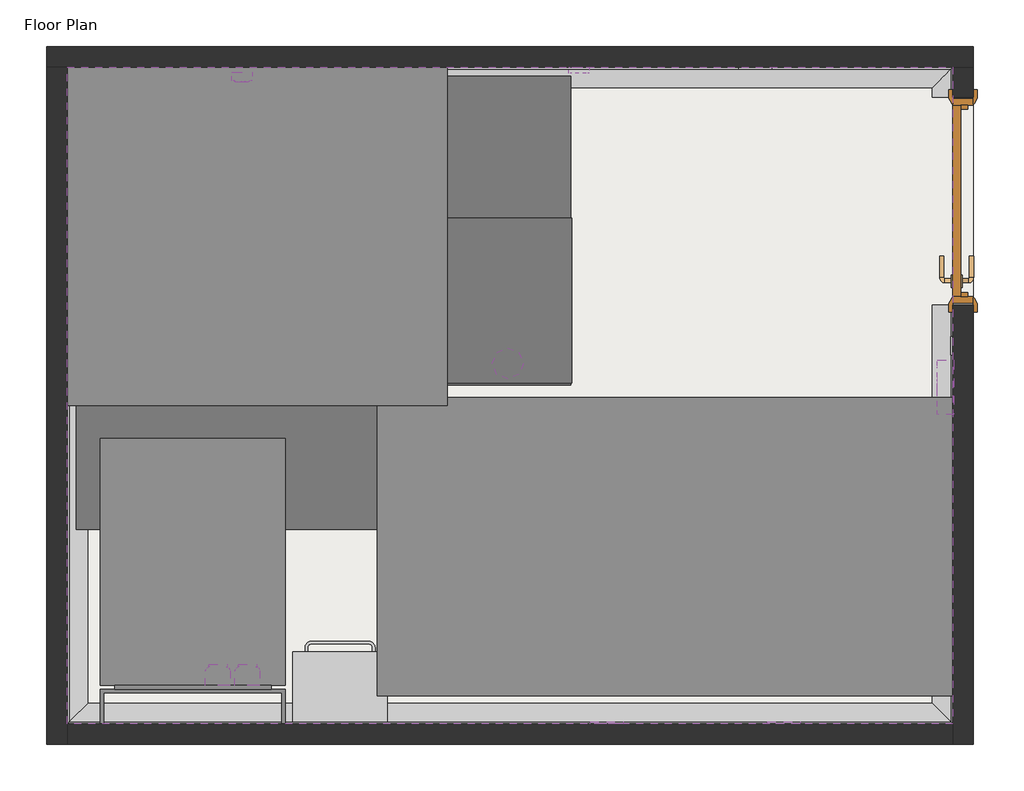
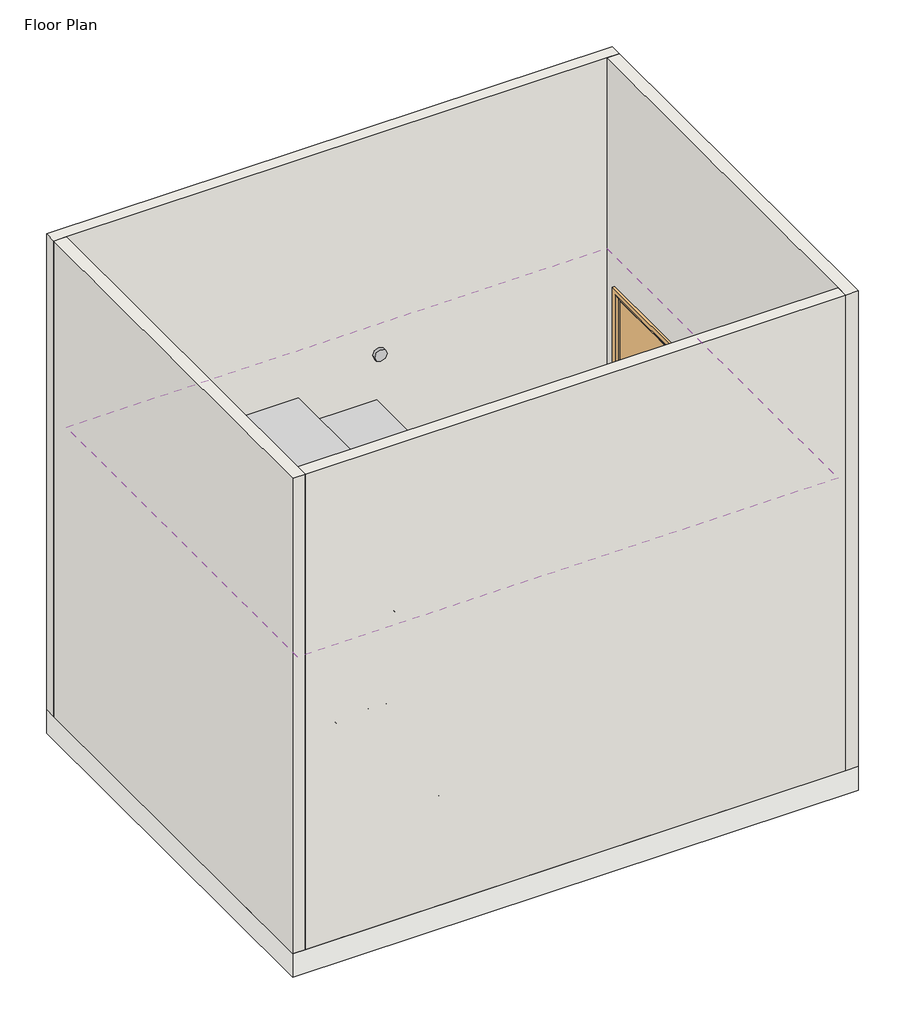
# One storey, incomplete: 20 proxies, 10 furniture elements, 5 walls, 2 flow terminals, 1 covering, 1 door, 1 slab.
"""IFC4 building model written with IfcOpenShell, lengths in millimetres."""

from ifc_helpers import new_model, si_unit, frame, origin, origin_with_axes, place, context, project, spatial, polyline, circle_curve, ellipse_curve, outline, extrude, faceted_brep, transform, mapped, element, save
from ifc_brep_helpers import plane_surface, revolved_surface, advanced_brep
from components import generic_models_cdc84ac3, generic_models_abbf64a3, generic_models_972189fc, generic_models_2b15bbc9, bimhealth_electrical_data_point_v1_type_1_559430e2, bimhealth_electrical_double_socket_v1_type_1_a33e6646, bimhealth_electrical_double_socket_v1_type_1_f9b83866, bimhealth_electrical_light_switch_v1_type_1_b5e59f8a, bimhealth_electrical_panic_alarm_v1_type_1_f5d69f13, bimhealth_electrical_smoke_detector_v1_bimhealth_electrical_fe9fcb6c, type_1_6de7a62d, door_1010x2110mm_f9eb5fde, flow_terminal_004a381b, flow_terminal_84fe5d21, furniture_3d3374f5, furniture_385ba860, furniture_c6a9ce10, furniture_500cdc3c, furniture_3867e9a4, furniture_d8de0f4c, furniture_166ce8d1, furniture_26d36cfe, furniture_3caebcda, furniture_fb8e9059

model = new_model("IFC4")

# Units and contexts
model_context = context("Model", 3, world=origin())
ifc_project = project(units=[si_unit("LENGTHUNIT", "METRE", prefix="MILLI")], contexts=[model_context])

# Site, building, storey
site = spatial("IfcSite", under=ifc_project)
building = spatial("IfcBuilding", under=site)
storey = spatial("IfcBuildingStorey", under=building, Name="Floor Plan", Elevation=0.0)

# Proxies
placement = place(None, origin())
element("IfcBuildingElementProxy", 1, Name="Wall Sweeps", at=placement, inside=storey, context=model_context, shape_type="AdvancedBrep", body=[
    advanced_brep(
    [(5.0, 5.0, 0.0), (105.0, 105.0, 0.0), (105.0, 105.0, 10.0), (15.0, 15.0, 100.0), (5.0, 5.0, 100.0), (5.0, 3195.0, 0.0), (5.0, 3195.0, 100.0), (15.0, 3185.0, 100.0), (105.0, 3095.0, 10.0), (105.0, 3095.0, 0.0)],
    [
        (0, 1),
        (1, 2),
        (2, 3, ellipse_curve(frame((105.0, 105.0, 100.0), z_axis=(-0.707106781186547, 0.7071067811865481, 0.0), x_axis=(0.7071067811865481, 0.7071067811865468, 0.0)), 127.2792206, 90.0)),
        (3, 4),
        (4, 0),
        (5, 6),
        (6, 7),
        (7, 8, ellipse_curve(frame((105.0, 3095.0, 100.0), z_axis=(-0.7071067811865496, -0.7071067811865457, 0.0), x_axis=(-0.7071067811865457, 0.7071067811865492, 0.0)), 127.2792206, 90.0)),
        (8, 9),
        (9, 5),
        (4, 6),
        (5, 0),
        (3, 7),
        (2, 8),
        (1, 9),
    ],
    [
        plane_surface(frame((5.0, 5.0, 304.8), z_axis=(0.707106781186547, -0.7071067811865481, 0.0), x_axis=(0.7071067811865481, 0.707106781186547, 0.0))),
        plane_surface(frame((5.0, 3195.0, 304.8), z_axis=(0.7071067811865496, 0.7071067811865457, 0.0), x_axis=(0.7071067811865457, -0.7071067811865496, 0.0))),
        plane_surface(frame((5.0, 5.0, 100.0), z_axis=(-1.0, 0.0, 0.0), x_axis=(0.0, 1.0, 0.0))),
        plane_surface(frame((15.0, 15.0, 100.0), z_axis=(0.0, 0.0, 1.0), x_axis=(0.0, 1.0, 0.0))),
        revolved_surface(polyline([(195.0, 3185.0, 100.0), (195.0, 15.0, 100.0)]), (105.0, 5.0, 100.0), (0.0, 1.0, 0.0)),
        plane_surface(frame((105.0, 105.0, 0.0), z_axis=(1.0, 0.0, 0.0), x_axis=(0.0, 1.0, 0.0))),
        plane_surface(frame((5.0, 5.0, 0.0), z_axis=(0.0, 0.0, -1.0), x_axis=(0.0, 1.0, 0.0))),
    ],
    [
        (0, [[1, 2, 3, 4, 5]]),
        (1, [[6, 7, 8, 9, 10]]),
        (2, [[-5, 11, -6, 12]]),
        (3, [[-4, 13, -7, -11]]),
        (4, [[-3, 14, -8, -13]]),
        (5, [[-2, 15, -9, -14]]),
        (6, [[-1, -12, -10, -15]]),
    ],
),
])
element("IfcBuildingElementProxy", 2, Name="Wall Sweeps", at=placement, inside=storey, context=model_context, shape_type="AdvancedBrep", body=[
    advanced_brep(
    [(5.0, 3195.0, 0.0), (105.0, 3095.0, 0.0), (105.0, 3095.0, 10.0), (15.0, 3185.0, 100.0), (5.0, 3195.0, 100.0), (4305.0, 3195.0, 0.0), (4305.0, 3195.0, 100.0), (4295.0, 3185.0, 100.0), (4205.0, 3095.0, 10.0), (4205.0, 3095.0, 0.0)],
    [
        (0, 1),
        (1, 2),
        (2, 3, ellipse_curve(frame((105.0, 3095.0, 100.0), z_axis=(0.7071067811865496, 0.7071067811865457, 0.0), x_axis=(0.7071067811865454, -0.7071067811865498, 0.0)), 127.2792206, 90.0)),
        (3, 4),
        (4, 0),
        (5, 6),
        (6, 7),
        (7, 8, ellipse_curve(frame((4205.0, 3095.0, 100.0), z_axis=(-0.7071067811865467, 0.7071067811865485, 0.0), x_axis=(0.7071067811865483, 0.7071067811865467, 0.0)), 127.2792206, 90.0)),
        (8, 9),
        (9, 5),
        (4, 6),
        (5, 0),
        (3, 7),
        (2, 8),
        (1, 9),
    ],
    [
        plane_surface(frame((5.0, 3195.0, 304.8), z_axis=(-0.7071067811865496, -0.7071067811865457, 0.0), x_axis=(0.7071067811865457, -0.7071067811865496, 0.0))),
        plane_surface(frame((4305.0, 3195.0, 304.8), z_axis=(0.7071067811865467, -0.7071067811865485, 0.0), x_axis=(-0.7071067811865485, -0.7071067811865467, 0.0))),
        plane_surface(frame((5.0, 3195.0, 100.0), z_axis=(0.0, 1.0, 0.0), x_axis=(1.0, 0.0, 0.0))),
        plane_surface(frame((15.0, 3185.0, 100.0), z_axis=(0.0, 0.0, 1.0), x_axis=(1.0, 0.0, 0.0))),
        revolved_surface(polyline([(4295.0, 3005.0, 100.0), (15.0, 3005.0, 100.0)]), (5.0, 3095.0, 100.0), (1.0, 0.0, 0.0)),
        plane_surface(frame((105.0, 3095.0, 0.0), z_axis=(0.0, -1.0, 0.0), x_axis=(1.0, 0.0, 0.0))),
        plane_surface(frame((5.0, 3195.0, 0.0), z_axis=(0.0, 0.0, -1.0), x_axis=(1.0, 0.0, 0.0))),
    ],
    [
        (0, [[1, 2, 3, 4, 5]]),
        (1, [[6, 7, 8, 9, 10]]),
        (2, [[-5, 11, -6, 12]]),
        (3, [[-4, 13, -7, -11]]),
        (4, [[-3, 14, -8, -13]]),
        (5, [[-2, 15, -9, -14]]),
        (6, [[-1, -12, -10, -15]]),
    ],
),
])
element("IfcBuildingElementProxy", 3, Name="Wall Sweeps", at=placement, inside=storey, context=model_context, shape_type="AdvancedBrep", body=[
    advanced_brep(
    [(4305.0, 2040.0, 0.0), (4205.0, 2040.0, 0.0), (4205.0, 2040.0, 10.0), (4295.0, 2040.0, 100.0), (4305.0, 2040.0, 100.0), (4305.0, 5.0, 0.0), (4305.0, 5.0, 100.0), (4295.0, 15.0, 100.0), (4205.0, 105.0, 10.0), (4205.0, 105.0, 0.0)],
    [
        (0, 1),
        (1, 2),
        (2, 3, circle_curve(frame((4205.0, 2040.0, 100.0), z_axis=(0.0, -1.0, 0.0), x_axis=(-1.0, 0.0, 0.0)), 90.0)),
        (3, 4),
        (4, 0),
        (5, 6),
        (6, 7),
        (7, 8, ellipse_curve(frame((4205.0, 105.0, 100.0), z_axis=(0.7071067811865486, 0.7071067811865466, 0.0), x_axis=(0.7071067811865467, -0.7071067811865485, 0.0)), 127.2792206, 90.0)),
        (8, 9),
        (9, 5),
        (4, 6),
        (5, 0),
        (3, 7),
        (2, 8),
        (1, 9),
    ],
    [
        plane_surface(frame((4204.5012438, 2040.0, 0.0), z_axis=(0.0, 1.0, 0.0), x_axis=(0.0, 0.0, -1.0))),
        plane_surface(frame((4305.0, 5.0, 304.8), z_axis=(-0.7071067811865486, -0.7071067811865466, 0.0), x_axis=(-0.7071067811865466, 0.7071067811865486, 0.0))),
        plane_surface(frame((4305.0, 2040.0, 100.0), z_axis=(1.0, 0.0, 0.0), x_axis=(0.0, -1.0, 0.0))),
        plane_surface(frame((4295.0, 2040.0, 100.0), z_axis=(0.0, 0.0, 1.0), x_axis=(0.0, -1.0, 0.0))),
        revolved_surface(polyline([(4115.0, 15.0, 100.0), (4115.0, 2040.0, 100.0)]), (4205.0, 2040.0, 100.0), (0.0, -1.0, 0.0)),
        plane_surface(frame((4205.0, 2040.0, 0.0), z_axis=(-1.0, 0.0, 0.0), x_axis=(0.0, -1.0, 0.0))),
        plane_surface(frame((4305.0, 2040.0, 0.0), z_axis=(0.0, 0.0, -1.0), x_axis=(0.0, -1.0, 0.0))),
    ],
    [
        (0, [[1, 2, 3, 4, 5]]),
        (1, [[6, 7, 8, 9, 10]]),
        (2, [[-5, 11, -6, 12]]),
        (3, [[-4, 13, -7, -11]]),
        (4, [[-3, 14, -8, -13]]),
        (5, [[-2, 15, -9, -14]]),
        (6, [[-1, -12, -10, -15]]),
    ],
),
    advanced_brep(
    [(4305.0, 3195.0, 0.0), (4205.0, 3095.0, 0.0), (4205.0, 3095.0, 10.0), (4295.0, 3185.0, 100.0), (4305.0, 3195.0, 100.0), (4305.0, 3050.0, 0.0), (4305.0, 3050.0, 100.0), (4295.0, 3050.0, 100.0), (4205.0, 3050.0, 10.0), (4205.0, 3050.0, 0.0)],
    [
        (0, 1),
        (1, 2),
        (2, 3, ellipse_curve(frame((4205.0, 3095.0, 100.0), z_axis=(0.7071067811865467, -0.7071067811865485, 0.0), x_axis=(-0.7071067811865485, -0.7071067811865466, 0.0)), 127.2792206, 90.0)),
        (3, 4),
        (4, 0),
        (5, 6),
        (6, 7),
        (7, 8, circle_curve(frame((4205.0, 3050.0, 100.0), z_axis=(0.0, 1.0, 0.0), x_axis=(-1.0, 0.0, 0.0)), 90.0)),
        (8, 9),
        (9, 5),
        (4, 6),
        (5, 0),
        (3, 7),
        (2, 8),
        (1, 9),
    ],
    [
        plane_surface(frame((4305.0, 3195.0, 304.8), z_axis=(-0.7071067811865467, 0.7071067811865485, 0.0), x_axis=(-0.7071067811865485, -0.7071067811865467, 0.0))),
        plane_surface(frame((4204.5012438, 3050.0, 0.0), z_axis=(0.0, -1.0, 0.0), x_axis=(0.0, 0.0, -1.0))),
        plane_surface(frame((4305.0, 3195.0, 100.0), z_axis=(1.0, 0.0, 0.0), x_axis=(0.0, -1.0, 0.0))),
        plane_surface(frame((4295.0, 3185.0, 100.0), z_axis=(0.0, 0.0, 1.0), x_axis=(0.0, -1.0, 0.0))),
        revolved_surface(polyline([(4115.0, 3005.0000000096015, 100.0), (4115.0, 3185.0, 100.0)]), (4205.0, 3195.0, 100.0), (0.0, -1.0, 0.0)),
        plane_surface(frame((4205.0, 3095.0, 0.0), z_axis=(-1.0, 0.0, 0.0), x_axis=(0.0, -1.0, 0.0))),
        plane_surface(frame((4305.0, 3195.0, 0.0), z_axis=(0.0, 0.0, -1.0), x_axis=(0.0, -1.0, 0.0))),
    ],
    [
        (0, [[1, 2, 3, 4, 5]]),
        (1, [[6, 7, 8, 9, 10]]),
        (2, [[-5, 11, -6, 12]]),
        (3, [[-4, 13, -7, -11]]),
        (4, [[-3, 14, -8, -13]]),
        (5, [[-2, 15, -9, -14]]),
        (6, [[-1, -12, -10, -15]]),
    ],
),
])
element("IfcBuildingElementProxy", 4, Name="Wall Sweeps", at=placement, inside=storey, context=model_context, shape_type="AdvancedBrep", body=[
    advanced_brep(
    [(4305.0, 5.0, 0.0), (4205.0, 105.0, 0.0), (4205.0, 105.0, 10.0), (4295.0, 15.0, 100.0), (4305.0, 5.0, 100.0), (5.0, 5.0, 0.0), (5.0, 5.0, 100.0), (15.0, 15.0, 100.0), (105.0, 105.0, 10.0), (105.0, 105.0, 0.0)],
    [
        (0, 1),
        (1, 2),
        (2, 3, ellipse_curve(frame((4205.0, 105.0, 100.0), z_axis=(-0.7071067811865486, -0.7071067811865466, 0.0), x_axis=(-0.7071067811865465, 0.7071067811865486, 0.0)), 127.2792206, 90.0)),
        (3, 4),
        (4, 0),
        (5, 6),
        (6, 7),
        (7, 8, ellipse_curve(frame((105.0, 105.0, 100.0), z_axis=(0.707106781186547, -0.7071067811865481, 0.0), x_axis=(-0.7071067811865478, -0.707106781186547, 0.0)), 127.2792206, 90.0)),
        (8, 9),
        (9, 5),
        (4, 6),
        (5, 0),
        (3, 7),
        (2, 8),
        (1, 9),
    ],
    [
        plane_surface(frame((4305.0, 5.0, 304.8), z_axis=(0.7071067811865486, 0.7071067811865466, 0.0), x_axis=(-0.7071067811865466, 0.7071067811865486, 0.0))),
        plane_surface(frame((5.0, 5.0, 304.8), z_axis=(-0.707106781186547, 0.7071067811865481, 0.0), x_axis=(0.7071067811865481, 0.707106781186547, 0.0))),
        plane_surface(frame((4305.0, 5.0, 100.0), z_axis=(0.0, -1.0, 0.0), x_axis=(-1.0, 0.0, 0.0))),
        plane_surface(frame((4295.0, 15.0, 100.0), z_axis=(0.0, 0.0, 1.0), x_axis=(-1.0, 0.0, 0.0))),
        revolved_surface(polyline([(15.0, 195.0, 100.0), (4295.0, 195.0, 100.0)]), (4305.0, 105.0, 100.0), (-1.0, 0.0, 0.0)),
        plane_surface(frame((4205.0, 105.0, 0.0), z_axis=(0.0, 1.0, 0.0), x_axis=(-1.0, 0.0, 0.0))),
        plane_surface(frame((4305.0, 5.0, 0.0), z_axis=(0.0, 0.0, -1.0), x_axis=(-1.0, 0.0, 0.0))),
    ],
    [
        (0, [[1, 2, 3, 4, 5]]),
        (1, [[6, 7, 8, 9, 10]]),
        (2, [[-5, 11, -6, 12]]),
        (3, [[-4, 13, -7, -11]]),
        (4, [[-3, 14, -8, -13]]),
        (5, [[-2, 15, -9, -14]]),
        (6, [[-1, -12, -10, -15]]),
    ],
),
])
generic_models_shape = generic_models_cdc84ac3(model_context)
element("IfcBuildingElementProxy", 5, Name="BIMHealth-Glove_Dispenser-LOD2A-v1 : BIMHealth-Glove_Dispenser-LOD2A-v1", ObjectType="BIMHealth-Glove_Dispenser-LOD2A-v1 : BIMHealth-Glove_Dispenser-LOD2A-v1", at=placement, inside=storey, context=model_context, shape_type="MappedRepresentation", body=[
    mapped(generic_models_shape, transform((4310.0, 1773.0, 0.0), x_axis=(0.0, -1.0000000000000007, 0.0), y_axis=(1.0000000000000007, 0.0, 0.0), z_axis=(0.0, 0.0, 1.0))),
])
generic_models_2_shape = generic_models_abbf64a3(model_context)
element("IfcBuildingElementProxy", 6, Name="BIMHealth-Hand_Cream_Dispenser-LOD2A-v1 : BIMHealth-Hand_Cream_Dispenser-LOD2A-v1", ObjectType="BIMHealth-Hand_Cream_Dispenser-LOD2A-v1 : BIMHealth-Hand_Cream_Dispenser-LOD2A-v1", at=placement, inside=storey, context=model_context, shape_type="MappedRepresentation", body=[
    mapped(generic_models_2_shape, transform((796.5383011, 191.0, 150.0), x_axis=(-1.0000000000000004, 0.0, 0.0), y_axis=(0.0, -1.0000000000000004, 0.0), z_axis=(0.0, 0.0, 1.0))),
])
generic_models_3_shape = generic_models_972189fc(model_context)
element("IfcBuildingElementProxy", 7, Name="BIMHealth-Wheelchair_Zone-LOD2A-v1 : BIMHealth-Wheelchair_Zone-LOD2A-v1", ObjectType="BIMHealth-Wheelchair_Zone-LOD2A-v1 : BIMHealth-Wheelchair_Zone-LOD2A-v1", at=placement, inside=storey, context=model_context, shape_type="MappedRepresentation", body=[
    mapped(generic_models_3_shape, transform((950.0, 3150.0, 0.0), x_axis=(1.0, 0.0, 0.0), y_axis=(0.0, 1.0, 0.0), z_axis=(0.0, 0.0, 1.0))),
])
element("IfcBuildingElementProxy", 8, Name="BIMHealth-Wheelchair_Zone-LOD2A-v1 : BIMHealth-Wheelchair_Zone-LOD2A-v1", ObjectType="BIMHealth-Wheelchair_Zone-LOD2A-v1 : BIMHealth-Wheelchair_Zone-LOD2A-v1", at=placement, inside=storey, context=model_context, shape_type="MappedRepresentation", body=[
    mapped(generic_models_3_shape, transform((50.0, 2450.0, 0.0), x_axis=(1.0, 0.0, 0.0), y_axis=(0.0, 1.0, 0.0), z_axis=(0.0, 0.0, 1.0))),
])
generic_models_4_shape = generic_models_2b15bbc9(model_context)
element("IfcBuildingElementProxy", 9, Name="BIMHealth-Upright_Chair_Zone-LOD2A-v1 : BIMHealth-Upright_Chair_Zone-LOD2A-v1", ObjectType="BIMHealth-Upright_Chair_Zone-LOD2A-v1 : BIMHealth-Upright_Chair_Zone-LOD2A-v1", at=placement, inside=storey, context=model_context, shape_type="MappedRepresentation", body=[
    mapped(generic_models_4_shape, transform((1205.0, 2460.9508103, 0.0), x_axis=(1.0000000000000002, 0.0, 0.0), y_axis=(0.0, 1.0000000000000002, 0.0), z_axis=(0.0, 0.0, 1.0))),
])
bimhealth_electrical_data_point_v1_type_1_shape = bimhealth_electrical_data_point_v1_type_1_559430e2(model_context)
element("IfcBuildingElementProxy", 10, Name="BIMHealth-Electrical-Data_Point-v1 : Type 1", ObjectType="BIMHealth-Electrical-Data_Point-v1 : Type 1", at=placement, inside=storey, context=model_context, shape_type="MappedRepresentation", body=[
    mapped(bimhealth_electrical_data_point_v1_type_1_shape, transform((530.0, 3175.0, -15.0), x_axis=(-1.0, 0.0, 0.0), y_axis=(0.0, -1.0, 0.0), z_axis=(0.0, 0.0, 1.0))),
])
bimhealth_electrical_double_socket_v1_type_1_shape = bimhealth_electrical_double_socket_v1_type_1_a33e6646(model_context)
element("IfcBuildingElementProxy", 11, Name="BIMHealth-Electrical-Double_Socket-v1 : Type 1", ObjectType="BIMHealth-Electrical-Double_Socket-v1 : Type 1", at=placement, inside=storey, context=model_context, shape_type="MappedRepresentation", body=[
    mapped(bimhealth_electrical_double_socket_v1_type_1_shape, transform((970.0, 3175.0, 285.0), x_axis=(-1.0, 0.0, 0.0), y_axis=(0.0, -1.0, 0.0), z_axis=(0.0, 0.0, 1.0))),
])
element("IfcBuildingElementProxy", 12, Name="BIMHealth-Electrical-Double_Socket-v1 : Type 1", ObjectType="BIMHealth-Electrical-Double_Socket-v1 : Type 1", at=placement, inside=storey, context=model_context, shape_type="MappedRepresentation", body=[
    mapped(bimhealth_electrical_double_socket_v1_type_1_shape, transform((1210.0, 3175.0, 285.0), x_axis=(-1.0, 0.0, 0.0), y_axis=(0.0, -1.0, 0.0), z_axis=(0.0, 0.0, 1.0))),
])
bimhealth_electrical_double_socket_v1_type_1_2_shape = bimhealth_electrical_double_socket_v1_type_1_f9b83866(model_context)
element("IfcBuildingElementProxy", 13, Name="BIMHealth-Electrical-Double_Socket-v1 : Type 1", ObjectType="BIMHealth-Electrical-Double_Socket-v1 : Type 1", at=placement, inside=storey, context=model_context, shape_type="MappedRepresentation", body=[
    mapped(bimhealth_electrical_double_socket_v1_type_1_2_shape, transform((3280.0, -45.0, 750.0), x_axis=(1.0, 0.0, 0.0), y_axis=(0.0, 1.0, 0.0), z_axis=(0.0, 0.0, 1.0))),
])
element("IfcBuildingElementProxy", 14, Name="BIMHealth-Electrical-Double_Socket-v1 : Type 1", ObjectType="BIMHealth-Electrical-Double_Socket-v1 : Type 1", at=placement, inside=storey, context=model_context, shape_type="MappedRepresentation", body=[
    mapped(bimhealth_electrical_double_socket_v1_type_1_2_shape, transform((3550.0, 3245.0, 0.0), x_axis=(-1.0, 0.0, 0.0), y_axis=(0.0, -1.0, 0.0), z_axis=(0.0, 0.0, 1.0))),
])
bimhealth_electrical_light_switch_v1_type_1_shape = bimhealth_electrical_light_switch_v1_type_1_b5e59f8a(model_context)
element("IfcBuildingElementProxy", 15, Name="BIMHealth-Electrical-Light_Switch-v1 : Type 1", ObjectType="BIMHealth-Electrical-Light_Switch-v1 : Type 1", at=placement, inside=storey, context=model_context, shape_type="MappedRepresentation", body=[
    mapped(bimhealth_electrical_light_switch_v1_type_1_shape, transform((4355.0, 1670.0, -60.0), x_axis=(0.0, 1.0, 0.0), y_axis=(-1.0, 0.0, 0.0), z_axis=(0.0, 0.0, 1.0))),
])
bimhealth_electrical_panic_alarm_v1_type_1_shape = bimhealth_electrical_panic_alarm_v1_type_1_f5d69f13(model_context)
element("IfcBuildingElementProxy", 16, Name="BIMHealth-Electrical-Panic_Alarm-v1 : Type 1", ObjectType="BIMHealth-Electrical-Panic_Alarm-v1 : Type 1", at=placement, inside=storey, context=model_context, shape_type="MappedRepresentation", body=[
    mapped(bimhealth_electrical_panic_alarm_v1_type_1_shape, transform((1030.0, 3245.0, 0.0), x_axis=(-1.0, 0.0, 0.0), y_axis=(0.0, -1.0, 0.0), z_axis=(0.0, 0.0, 1.0))),
])
bimhealth_electrical_smoke_detector_v1_bimhealth_electrical_shape = bimhealth_electrical_smoke_detector_v1_bimhealth_electrical_fe9fcb6c(model_context)
element("IfcBuildingElementProxy", 17, Name="BIMHealth-Electrical-Smoke_Detector-v1 : BIMHealth-Electrical-Smoke_Detector-v1", ObjectType="BIMHealth-Electrical-Smoke_Detector-v1 : BIMHealth-Electrical-Smoke_Detector-v1", at=placement, inside=storey, context=model_context, shape_type="MappedRepresentation", body=[
    mapped(bimhealth_electrical_smoke_detector_v1_bimhealth_electrical_shape, transform((2145.0, 1755.0, -38.4), x_axis=(1.0, 0.0, 0.0), y_axis=(0.0, 1.0, 0.0), z_axis=(0.0, 0.0, 1.0))),
])
element("IfcBuildingElementProxy", 18, Name="BIMHealth-Electrical-Telephone_Point-v1 : Type 1", ObjectType="BIMHealth-Electrical-Telephone_Point-v1 : Type 1", at=placement, inside=storey, context=model_context, shape_type="MappedRepresentation", body=[
    mapped(bimhealth_electrical_data_point_v1_type_1_shape, transform((720.0, 3175.0, -15.0), x_axis=(-1.0, 0.0, 0.0), y_axis=(0.0, -1.0, 0.0), z_axis=(0.0, 0.0, 1.0))),
])
type_1_shape = type_1_6de7a62d(model_context)
element("IfcBuildingElementProxy", 19, Name="BIMHealth-Electrical-Alarm_Sounder-v1 : Type 1", ObjectType="BIMHealth-Electrical-Alarm_Sounder-v1 : Type 1", at=placement, inside=storey, context=model_context, shape_type="MappedRepresentation", body=[
    mapped(type_1_shape, transform((2665.0, 3245.0, 0.0), x_axis=(-1.0, 0.0, 0.0), y_axis=(0.0, -1.0, 0.0), z_axis=(0.0, 0.0, 1.0))),
])
element("IfcBuildingElementProxy", 20, Name="BIMHealth-Electrical-Fused_Spur.v1 : Type 1", ObjectType="BIMHealth-Electrical-Fused_Spur.v1 : Type 1", at=placement, inside=storey, context=model_context, shape_type="MappedRepresentation", body=[
    mapped(bimhealth_electrical_double_socket_v1_type_1_2_shape, transform((2420.0, -45.0, 750.0), x_axis=(1.0, 0.0, 0.0), y_axis=(0.0, 1.0, 0.0), z_axis=(0.0, 0.0, 1.0))),
])

# Covering
element("IfcCovering", 21, ObjectType="BIMHealth - Generic Ceiling", at=placement, inside=storey, context=model_context, shape_type="SweptSolid", body=[
    extrude(outline(polyline([(4305.0, 3195.0), (4305.0, 5.0), (5.0, 5.0), (5.0, 3195.0), (4305.0, 3195.0)])), frame((0.0, 0.0, 2400.0), z_axis=(0.0, 0.0, 1.0), x_axis=(1.0, 0.0, 0.0)), (0.0, 0.0, 1.0), 52.0),
])

# Door
door_1010x2110mm_shape = door_1010x2110mm_f9eb5fde(model_context)
element("IfcDoor", 22, ObjectType="BIMHealth-Single_Door-LOD2A-v1 : 1010x2110mm", at=placement, inside=storey, context=model_context, shape_type="MappedRepresentation", body=[
    mapped(door_1010x2110mm_shape, transform((4355.0, 2545.0, 0.0), x_axis=(0.0, 1.0, 0.0), y_axis=(-1.0, 0.0, 0.0), z_axis=(0.0, 0.0, 1.0))),
])

# Flow terminals
flow_terminal_shape = flow_terminal_004a381b(model_context)
element("IfcFlowTerminal", 23, ObjectType="BIMHealth-Taps_IPS-LOD2A-v1 : BIMHealth-Taps_IPS-LOD2A-v1", at=placement, inside=storey, context=model_context, shape_type="MappedRepresentation", body=[
    mapped(flow_terminal_shape, transform((740.0, 249.1543621, 1022.0), x_axis=(-1.0000000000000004, 0.0, 0.0), y_axis=(0.0, -1.0000000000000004, 0.0), z_axis=(0.0, 0.0, 1.0))),
])
flow_terminal_2_shape = flow_terminal_84fe5d21(model_context)
element("IfcFlowTerminal", 24, ObjectType="BIMHealth-Wash_basin-LOD2A-v1 : BIMHealth-Wash_basin-LOD2A-v1", at=placement, inside=storey, context=model_context, shape_type="MappedRepresentation", body=[
    mapped(flow_terminal_2_shape, transform((890.0, 191.0, 650.0), x_axis=(-1.0, 0.0, 0.0), y_axis=(0.0, -1.0, 0.0), z_axis=(0.0, 0.0, 1.0))),
])

# Furniture
furniture_shape = furniture_3d3374f5(model_context)
element("IfcFurniture", 25, ObjectType="BIMHealth-Washstation-LOD2A-v1 : BIMHealth-Washstation-LOD2A-v1", at=placement, inside=storey, context=model_context, shape_type="MappedRepresentation", body=[
    mapped(furniture_shape, transform((165.0, 5.0, 0.0), x_axis=(-1.0000000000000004, 0.0, 0.0), y_axis=(0.0, -1.0000000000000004, 0.0), z_axis=(0.0, 0.0, 1.0))),
])
furniture_2_shape = furniture_385ba860(model_context)
element("IfcFurniture", 26, ObjectType="BIMHealth-Alcohol_gel_dispenser-LOD2A-v1 : BIMHealth-Alcohol_gel_dispenser-LOD2A-v1", at=placement, inside=storey, context=model_context, shape_type="MappedRepresentation", body=[
    mapped(furniture_2_shape, transform((1009.9043831, 3200.0, -300.0), x_axis=(1.0, 0.0, 0.0), y_axis=(0.0, 1.0, 0.0), z_axis=(0.0, 0.0, 1.0))),
])
furniture_3_shape = furniture_c6a9ce10(model_context)
element("IfcFurniture", 27, ObjectType="BIMHealth-Bin_Clinical_Foot_Operated-LOD2A-v1 : BIMHealth-Bin_Clinical_Foot_Operated-LOD2A-v1", at=placement, inside=storey, context=model_context, shape_type="MappedRepresentation", body=[
    mapped(furniture_3_shape, transform((1550.0, 25.0, 0.0), x_axis=(-1.0000000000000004, 0.0, 0.0), y_axis=(0.0, -1.0000000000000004, 0.0), z_axis=(0.0, 0.0, 1.0))),
])
furniture_4_shape = furniture_500cdc3c(model_context)
element("IfcFurniture", 28, ObjectType="BIMHealth-Couch_Examination-LOD2A-v1 : BIMHealth-Couch_Examination-LOD2A-v1", at=placement, inside=storey, context=model_context, shape_type="MappedRepresentation", body=[
    mapped(furniture_4_shape, transform((4210.0, 790.0, 0.0), x_axis=(0.0, -1.0000000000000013, 0.0), y_axis=(1.0000000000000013, 0.0, 0.0), z_axis=(0.0, 0.0, 1.0))),
])
furniture_5_shape = furniture_3867e9a4(model_context)
element("IfcFurniture", 29, ObjectType="BIMHealth-Curtain_Consultant-LOD2A-v1 : BIMHealth-Curtain_Consultant-LOD2A-v1", at=placement, inside=storey, context=model_context, shape_type="MappedRepresentation", body=[
    mapped(furniture_5_shape, transform((4310.0, 1380.0, 0.0), x_axis=(-1.0, 0.0, 0.0), y_axis=(0.0, -1.0, 0.0), z_axis=(0.0, 0.0, 1.0))),
])
furniture_6_shape = furniture_d8de0f4c(model_context)
element("IfcFurniture", 30, ObjectType="BIMHealth-Mirror_Consultation-LOD2A-v1 : BIMHealth-Mirror_Consultation-LOD2A-v1", at=placement, inside=storey, context=model_context, shape_type="MappedRepresentation", body=[
    mapped(furniture_6_shape, transform((4300.0, 1260.0, 0.0), x_axis=(0.0, -1.0000000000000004, 0.0), y_axis=(1.0000000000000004, 0.0, 0.0), z_axis=(0.0, 0.0, 1.0))),
])
furniture_7_shape = furniture_166ce8d1(model_context)
element("IfcFurniture", 31, ObjectType="BIMHealth-Paper_Towel_Dispenser-LOD2A-v1 : BIMHealth-Paper_Towel_Dispenser-LOD2A-v1", at=placement, inside=storey, context=model_context, shape_type="MappedRepresentation", body=[
    mapped(furniture_7_shape, transform((630.0, 160.0, 20.0), x_axis=(-1.0000000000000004, 0.0, 0.0), y_axis=(0.0, -1.0000000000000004, 0.0), z_axis=(0.0, 0.0, 1.0))),
])
furniture_8_shape = furniture_26d36cfe(model_context)
element("IfcFurniture", 32, ObjectType="BIMHealth-Soap_Dispenser-LOD2A-v1 : BIMHealth-Soap_Dispenser-LOD2A-v1", at=placement, inside=storey, context=model_context, shape_type="MappedRepresentation", body=[
    mapped(furniture_8_shape, transform((940.0, 191.0, 150.0), x_axis=(-1.0, 0.0, 0.0), y_axis=(0.0, -1.0, 0.0), z_axis=(0.0, 0.0, 1.0))),
])
furniture_9_shape = furniture_3caebcda(model_context)
element("IfcFurniture", 33, ObjectType="BIMHealth-Consultant_Workstation-LOD2A-v1 : BIMHealth-Consultant_Workstation-LOD2A-v1", at=placement, inside=storey, context=model_context, shape_type="MappedRepresentation", body=[
    mapped(furniture_9_shape, transform((50.0, 3150.0, 0.0), x_axis=(1.0000000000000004, 0.0, 0.0), y_axis=(0.0, 1.0000000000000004, 0.0), z_axis=(0.0, 0.0, 1.0))),
])
furniture_10_shape = furniture_fb8e9059(model_context)
element("IfcFurniture", 34, ObjectType="BIMHealth-Chair_Consultant-LOD2A-v1 : BIMHealth-Chair_Consultant-LOD2A-v1", at=placement, inside=storey, context=model_context, shape_type="MappedRepresentation", body=[
    mapped(furniture_10_shape, transform((850.0, 1782.7673619, 0.0), x_axis=(-1.0, 0.0, 0.0), y_axis=(0.0, -1.0, 0.0), z_axis=(0.0, 0.0, 1.0))),
])

# Slab
element("IfcSlab", 35, ObjectType="BIMHealth - Generic Floor", at=placement, inside=storey, context=model_context, shape_type="SweptSolid", body=[
    extrude(outline(polyline([(4405.0, 3295.0), (4405.0, -95.0), (-95.0, -95.0), (-95.0, 3295.0), (4405.0, 3295.0)])), frame((0.0, 0.0, -200.0), z_axis=(0.0, 0.0, 1.0), x_axis=(1.0, 0.0, 0.0)), (0.0, 0.0, 1.0), 200.0),
])

# Walls
element("IfcWall", 36, ObjectType="BIMHealth - Generic Wall - Trunking", at=placement, inside=storey, context=model_context, shape_type="SweptSolid", body=[
    extrude(outline(polyline([(1110.0, 3150.0), (5.0, 3150.0), (5.0, 3200.0), (1110.0, 3200.0), (1110.0, 3150.0)])), frame((0.0, 0.0, 700.0), z_axis=(0.0, 0.0, 1.0), x_axis=(1.0, 0.0, 0.0)), (0.0, 0.0, 1.0), 150.0),
])
element("IfcWall", 37, ObjectType="BIMHealth - Generic Wall", at=placement, inside=storey, context=model_context, shape_type="Brep", body=[
    faceted_brep([(5.0, -95.0, 0.0), (5.0, 5.0, 0.0), (5.0, 3195.0, 0.0), (5.0, 3195.0, 4000.0), (5.0, 5.0, 4000.0), (5.0, -95.0, 4000.0), (-95.0, -95.0, 0.0), (-95.0, -95.0, 4000.0), (-95.0, 3195.0, 4000.0), (-95.0, 3195.0, 0.0)], [[[0, 1, 2, 3, 4, 5]], [[6, 7, 8, 9]], [[2, 1, 0, 6, 9]], [[5, 4, 3, 8, 7]], [[0, 5, 7, 6]], [[3, 2, 9, 8]]]),
])
element("IfcWall", 38, ObjectType="BIMHealth - Generic Wall", at=placement, inside=storey, context=model_context, shape_type="Brep", body=[
    faceted_brep([(-95.0, 3195.0, 0.0), (5.0, 3195.0, 0.0), (4305.0, 3195.0, 0.0), (4405.0, 3195.0, 0.0), (4405.0, 3195.0, 4000.0), (4305.0, 3195.0, 4000.0), (5.0, 3195.0, 4000.0), (-95.0, 3195.0, 4000.0), (-95.0, 3295.0, 0.0), (-95.0, 3295.0, 4000.0), (4405.0, 3295.0, 4000.0), (4405.0, 3295.0, 0.0)], [[[0, 1, 2, 3, 4, 5, 6, 7]], [[8, 9, 10, 11]], [[3, 2, 1, 0, 8, 11]], [[7, 6, 5, 4, 10, 9]], [[4, 3, 11, 10]], [[0, 7, 9, 8]]]),
])
element("IfcWall", 39, ObjectType="BIMHealth - Generic Wall", at=placement, inside=storey, context=model_context, shape_type="Brep", body=[
    faceted_brep([(4305.0, -95.0, 4000.0), (4305.0, 5.0, 4000.0), (4305.0, 3195.0, 4000.0), (4305.0, 3195.0, 0.0), (4305.0, 3050.0, 0.0), (4305.0, 3050.0, 100.0), (4305.0, 3050.0, 2110.0), (4305.0, 2040.0, 2110.0), (4305.0, 2040.0, 100.0), (4305.0, 2040.0, 0.0), (4305.0, 5.0, 0.0), (4305.0, -95.0, 0.0), (4405.0, 3195.0, 4000.0), (4405.0, -95.0, 4000.0), (4405.0, -95.0, 0.0), (4405.0, 2040.0, 0.0), (4405.0, 2040.0, 2110.0), (4405.0, 3050.0, 2110.0), (4405.0, 3050.0, 0.0), (4405.0, 3195.0, 0.0)], [[[0, 1, 2, 3, 4, 5, 6, 7, 8, 9, 10, 11]], [[12, 13, 14, 15, 16, 17, 18, 19]], [[3, 19, 18, 4]], [[14, 11, 10, 9, 15]], [[2, 1, 0, 13, 12]], [[3, 2, 12, 19]], [[0, 11, 14, 13]], [[17, 6, 5, 4, 18]], [[6, 17, 16, 7]], [[7, 16, 15, 9, 8]]]),
])
element("IfcWall", 40, ObjectType="BIMHealth - Generic Wall", at=placement, inside=storey, context=model_context, shape_type="SweptSolid", body=[
    extrude(outline(polyline([(5.0, 5.0), (4305.0, 5.0), (4305.0, -95.0), (5.0, -95.0), (5.0, 5.0)])), origin_with_axes(), (0.0, 0.0, 1.0), 4000.0),
])

save(model, "model.ifc")
